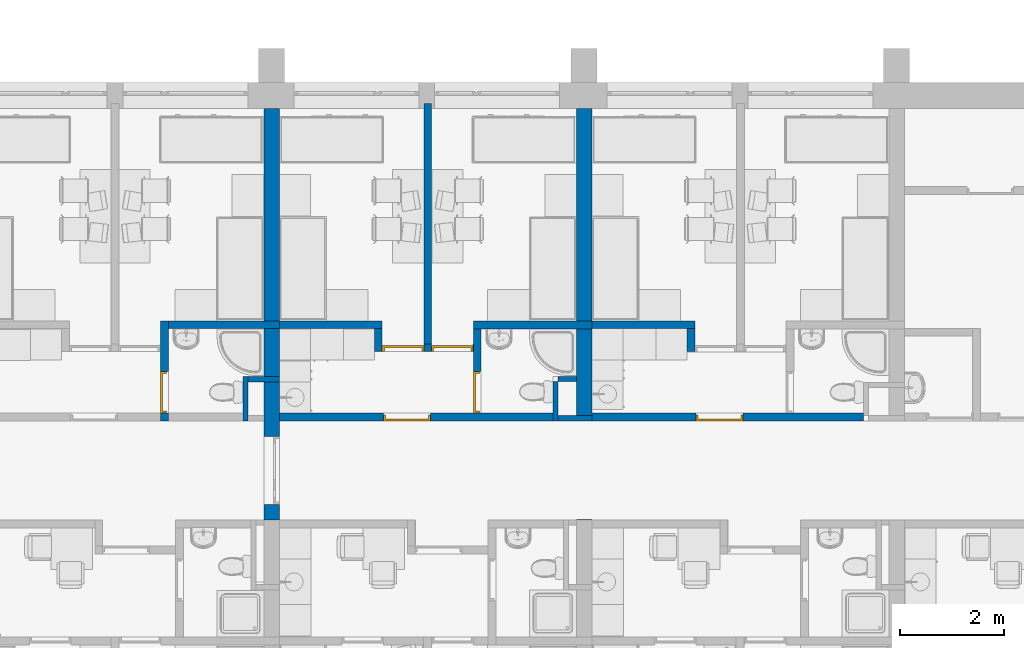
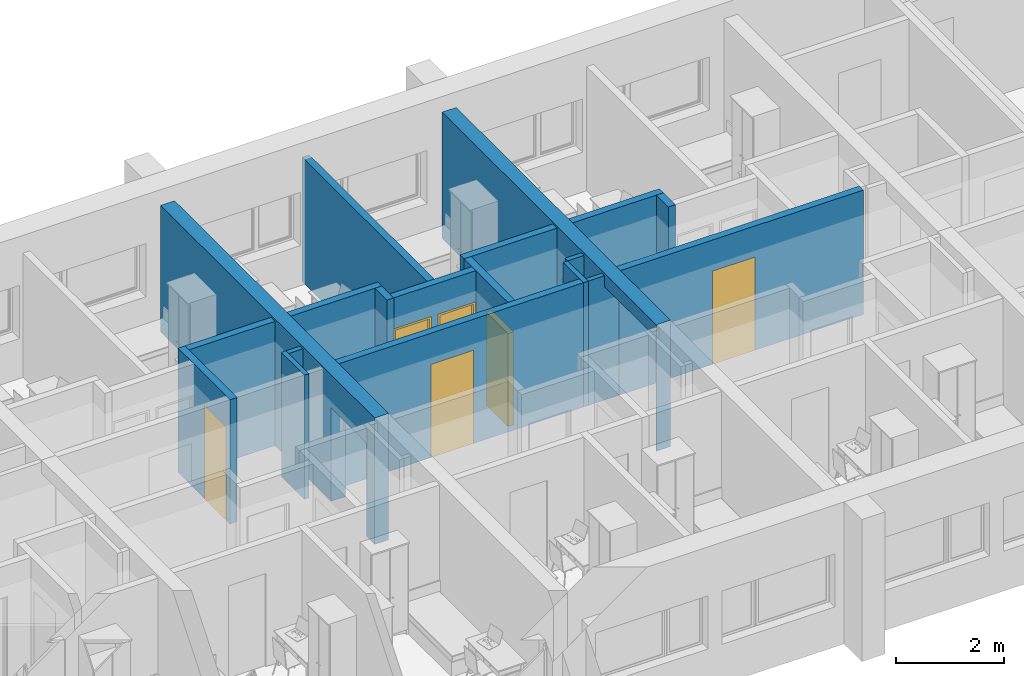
# One storey, part 7 of 165: 19 walls, 6 doors, 8 openings.
"""IFC2X3 building model written with IfcOpenShell, lengths in millimetres."""

from ifc_helpers import new_model, entity, si_unit, converted_unit, money_unit, direction, frame, origin_with_axes, place, context, subcontext, project, spatial, polyline, outline, extrude, faceted_brep, source, transform, mapped, material, material_list, layer, layer_set, layer_usage, type_object, element, fill, save


model = new_model("IFC2X3")

# Units and contexts
model_context = context("Model", 3, precision=1e-05, world=origin_with_axes(), true_north=direction((0.0, 1.0)))
body_context = subcontext(model_context, "Body", "Model", "MODEL_VIEW")
ifc_project = project(units=[si_unit("LENGTHUNIT", "METRE", prefix="MILLI"), si_unit("AREAUNIT", "SQUARE_METRE"), si_unit("VOLUMEUNIT", "CUBIC_METRE"), converted_unit("PLANEANGLEUNIT", "DEGREE", entity("IfcPlaneAngleMeasure", 0.0174532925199), si_unit("PLANEANGLEUNIT", "RADIAN"), dimensions=[0, 0, 0, 0, 0, 0, 0]), si_unit("SOLIDANGLEUNIT", "STERADIAN"), money_unit("USD"), converted_unit("TIMEUNIT", "Year", entity("IfcTimeMeasure", 31556926.0), si_unit("TIMEUNIT", "SECOND"), dimensions=[0, 0, 0, 0, 0, 0, 0]), si_unit("MASSUNIT", "GRAM"), si_unit("THERMODYNAMICTEMPERATUREUNIT", "DEGREE_CELSIUS"), si_unit("LUMINOUSINTENSITYUNIT", "LUMEN")], contexts=[model_context])

# Site, building, storey
site_placement = place(None, origin_with_axes())
site = spatial("IfcSite", under=ifc_project, at=site_placement, Name="Site", CompositionType="ELEMENT")
building_placement = place(site_placement, origin_with_axes())
building = spatial("IfcBuilding", under=site, at=building_placement, Name="Building", CompositionType="ELEMENT")
storey_placement = place(building_placement, frame((0.0, 0.0, 6300.0), z_axis=(0.0, 0.0, 1.0), x_axis=(1.0, 0.0, 0.0)))
storey = spatial("IfcBuildingStorey", under=building, at=storey_placement, Name="4KORRUS", CompositionType="ELEMENT", Elevation=6300.0)

# Wall
ifc_material_1 = material(Name="UmbKipsplaat")
ifc_layer_1 = layer(ifc_material_1, 13.0, ventilated="UNKNOWN")
ifc_layer_2 = layer(ifc_material_1, 13.0, ventilated="UNKNOWN")
ifc_material_2 = material(Name="SOOJUSTUS MINERAALVILL")
ifc_layer_3 = layer(ifc_material_2, 98.0, ventilated="UNKNOWN")
ifc_layer_4 = layer(ifc_material_1, 13.0, ventilated="UNKNOWN")
ifc_layer_5 = layer(ifc_material_1, 13.0, ventilated="UNKNOWN")
ifc_layer_set_1 = layer_set([ifc_layer_1, ifc_layer_2, ifc_layer_3, ifc_layer_4, ifc_layer_5], Name="kipssein150")
ifc_layer_usage_1 = layer_usage(ifc_layer_set_1, "AXIS2", "POSITIVE", -150.0)
wall_type_1 = type_object("IfcWallType", Name="kipssein150 150", PredefinedType="NOTDEFINED")
wall_1_placement = place(storey_placement, frame((-28015.7435229, -9366.37850445, 0.0), z_axis=(0.0, 0.0, 1.0), x_axis=(-1.0, 0.0, 0.0)))
element("IfcWallStandardCase", 1, at=wall_1_placement, inside=storey, type_object=wall_type_1, material=ifc_layer_usage_1, Name="SS1", ObjectType="SS1", context=body_context, shape_type="SweptSolid", body=[
    extrude(outline(polyline([(0.0, -150.0), (1974.55318041, -150.0), (1974.55318041, 0.0), (0.0, 0.0), (0.0, -150.0)])), origin_with_axes(), (0.0, 0.0, 1.0), 2800.0),
])

# Wall, opening, door
ifc_layer_usage_2 = layer_usage(ifc_layer_set_1, "AXIS2", "POSITIVE", 0.0)
wall_2_placement = place(storey_placement, frame((-38271.5850987, -9217.37850445, 0.0), z_axis=(0.0, 0.0, 1.0), x_axis=(0.0, -1.0, 0.0)))
wall_2 = element("IfcWallStandardCase", 2, at=wall_2_placement, inside=storey, type_object=wall_type_1, material=ifc_layer_usage_2, Name="SS1", ObjectType="SS1", context=body_context, shape_type="SweptSolid", body=[
    extrude(outline(polyline([(0.0, 0.0), (1919.22560435, 0.0), (1919.22560435, 150.0), (0.0, 150.0), (0.0, 0.0)])), origin_with_axes(), (0.0, 0.0, 1.0), 2800.0),
])
opening_1_placement = place(wall_2_placement, frame((1369.22560435, 0.0, 0.0), z_axis=(0.0, 0.0, 1.0), x_axis=(1.0, 0.0, 0.0)))
opening_1 = element("IfcOpeningElement", 3, at=opening_1_placement, cuts=wall_2, Name="SU3-3", context=body_context, shape_type="SweptSolid", body=[
    extrude(outline(polyline([(-400.0, -2100.0), (400.0, -2100.0), (400.0, 0.0), (-400.0, 0.0), (-400.0, -2100.0)])), frame((0.0, 150.0, 0.0), z_axis=(0.0, 1.0, 0.0), x_axis=(1.0, 0.0, 0.0)), (0.0, 0.0, -1.0), 450.0),
])
ifc_material_3 = material(Name="Background")
ifc_material_list = material_list([ifc_material_3])
door_style_1 = type_object("IfcDoorStyle", Name="Door 19", ConstructionType="NOTDEFINED", OperationType="SINGLE_SWING_LEFT", ParameterTakesPrecedence=False, Sizeable=False)
shared_shape_1 = source(origin_with_axes(), body_context, "Body", "Brep", [
    faceted_brep([(360.0, -40.0, 0.0), (360.0, -115.0, 0.0), (360.0, -115.0, 2060.0), (360.0, -40.0, 2060.0), (372.0, -40.0, 0.0), (372.0, 0.0, 0.0), (400.0, 0.0, 0.0), (400.0, -115.0, 0.0), (400.0, -115.0, 2060.0), (372.0, -40.0, 2060.0), (400.0, 0.0, 2060.0), (372.0, 0.0, 2060.0)], [[[0, 1, 2, 3]], [[4, 5, 6, 7, 1, 0]], [[2, 1, 7, 8]], [[9, 3, 2, 8, 10, 11]], [[9, 4, 0, 3]], [[11, 5, 4, 9]], [[11, 10, 6, 5]], [[7, 6, 10, 8]]]),
    faceted_brep([(-372.0, -40.0, 2060.0), (-372.0, 0.0, 2060.0), (-400.0, 0.0, 2060.0), (-400.0, -115.0, 2060.0), (-360.0, -115.0, 2060.0), (-360.0, -40.0, 2060.0), (-372.0, -40.0, 0.0), (-372.0, 0.0, 0.0), (-400.0, 0.0, 0.0), (-400.0, -115.0, 0.0), (-360.0, -115.0, 0.0), (-360.0, -40.0, 0.0)], [[[0, 1, 2, 3, 4, 5]], [[0, 6, 7, 1]], [[7, 8, 2, 1]], [[3, 2, 8, 9]], [[4, 3, 9, 10]], [[5, 4, 10, 11]], [[5, 11, 6, 0]], [[6, 11, 10, 9, 8, 7]]]),
    faceted_brep([(372.0, 0.0, 2072.0), (-372.0, 0.0, 2072.0), (-372.0, 0.0, 2060.0), (-400.0, 0.0, 2060.0), (-400.0, 0.0, 2100.0), (400.0, 0.0, 2100.0), (400.0, 0.0, 2060.0), (372.0, 0.0, 2060.0), (372.0, -40.0, 2072.0), (-372.0, -40.0, 2072.0), (-372.0, -40.0, 2060.0), (-360.0, -40.0, 2060.0), (-360.0, -115.0, 2060.0), (-400.0, -115.0, 2060.0), (-400.0, -115.0, 2100.0), (400.0, -115.0, 2100.0), (400.0, -115.0, 2060.0), (372.0, -40.0, 2060.0), (360.0, -115.0, 2060.0), (360.0, -40.0, 2060.0)], [[[0, 1, 2, 3, 4, 5, 6, 7]], [[0, 8, 9, 1]], [[1, 9, 10, 2]], [[10, 11, 12, 13, 3, 2]], [[14, 4, 3, 13]], [[15, 5, 4, 14]], [[16, 6, 5, 15]], [[17, 7, 6, 16, 18, 19]], [[7, 17, 8, 0]], [[10, 9, 8, 17, 19, 11]], [[19, 18, 12, 11]], [[13, 12, 18, 16, 15, 14]]]),
    faceted_brep([(-372.0, 0.0, 0.0), (372.0, 0.0, 0.0), (372.0, -40.0, 0.0), (-372.0, -40.0, 0.0), (-372.0, 0.0, 2072.0), (372.0, 0.0, 2072.0), (372.0, -40.0, 2072.0), (-372.0, -40.0, 2072.0)], [[[0, 1, 2, 3]], [[0, 4, 5, 1]], [[1, 5, 6, 2]], [[3, 2, 6, 7]], [[4, 0, 3, 7]], [[5, 4, 7, 6]]]),
])
door_1_placement = place(opening_1_placement, frame((400.0, 0.0, 0.0), z_axis=(0.0, 0.0, 1.0), x_axis=(-1.0, 0.0, 0.0)))
door_1 = element("IfcDoor", 4, at=door_1_placement, inside=storey, type_object=door_style_1, material=ifc_material_list, Name="SU3-3", ObjectType="WC-uks", OverallHeight=2100.0, OverallWidth=800.0, context=body_context, shape_type="MappedRepresentation", body=[
    mapped(shared_shape_1, transform((400.0, 0.0, 0.0))),
])
fill(opening_1, door_1)

# Walls
ifc_layer_usage_3 = layer_usage(ifc_layer_set_1, "AXIS2", "POSITIVE", 0.0)
wall_3_placement = place(storey_placement, frame((-38271.5850987, -9366.37850445, 0.0), z_axis=(0.0, 0.0, 1.0), x_axis=(1.0, 0.0, 0.0)))
element("IfcWallStandardCase", 5, at=wall_3_placement, inside=storey, type_object=wall_type_1, material=ifc_layer_usage_3, Name="SS1", ObjectType="SS1", context=body_context, shape_type="SweptSolid", body=[
    extrude(outline(polyline([(0.0, 0.0), (2281.28839536, 0.0), (2281.28839536, 150.0), (0.0, 150.0), (0.0, 0.0)])), origin_with_axes(), (0.0, 0.0, 1.0), 2800.0),
])
ifc_layer_usage_4 = layer_usage(ifc_layer_set_1, "AXIS2", "POSITIVE", 0.0)
wall_4_placement = place(storey_placement, frame((-32265.2967033, -9367.37850445, 0.0), z_axis=(0.0, 0.0, 1.0), x_axis=(1.0, 0.0, 0.0)))
element("IfcWallStandardCase", 6, at=wall_4_placement, inside=storey, type_object=wall_type_1, material=ifc_layer_usage_4, Name="SS1", ObjectType="SS1", context=body_context, shape_type="SweptSolid", body=[
    extrude(outline(polyline([(0.0, 0.0), (2275.0, 0.0), (2275.0, 150.0), (0.0, 150.0), (0.0, 0.0)])), origin_with_axes(), (0.0, 0.0, 1.0), 2800.0),
])
ifc_layer_usage_5 = layer_usage(ifc_layer_set_1, "AXIS2", "POSITIVE", -150.0)
wall_5_placement = place(storey_placement, frame((-34015.7435229, -9366.37850445, 0.0), z_axis=(0.0, 0.0, 1.0), x_axis=(0.0, -1.0, 0.0)))
element("IfcWallStandardCase", 7, at=wall_5_placement, inside=storey, type_object=wall_type_1, material=ifc_layer_usage_5, Name="SS1", ObjectType="SS1", context=body_context, shape_type="SweptSolid", body=[
    extrude(outline(polyline([(0.0, -150.0), (440.515634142, -150.0), (440.515634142, 0.0), (0.0, 0.0), (0.0, -150.0)])), origin_with_axes(), (0.0, 0.0, 1.0), 2800.0),
])

# Wall, openings, doors
ifc_layer_usage_6 = layer_usage(ifc_layer_set_1, "AXIS2", "POSITIVE", 0.0)
wall_6_placement = place(storey_placement, frame((-34015.7435229, -9806.89413859, 0.0), z_axis=(0.0, 0.0, 1.0), x_axis=(1.0, 0.0, 0.0)))
wall_6 = element("IfcWallStandardCase", 8, at=wall_6_placement, inside=storey, type_object=wall_type_1, material=ifc_layer_usage_6, Name="SS1", ObjectType="SS1", context=body_context, shape_type="SweptSolid", body=[
    extrude(outline(polyline([(0.0, 0.0), (1750.44681959, 0.0), (1750.44681959, 150.0), (0.0, 150.0), (0.0, 0.0)])), origin_with_axes(), (0.0, 0.0, 1.0), 2800.0),
])
opening_2_placement = place(wall_6_placement, frame((1341.45577623, 0.0, 0.0), z_axis=(0.0, 0.0, 1.0), x_axis=(1.0, 0.0, 0.0)))
opening_2 = element("IfcOpeningElement", 9, at=opening_2_placement, cuts=wall_6, Name="SU3-5", context=body_context, shape_type="SweptSolid", body=[
    extrude(outline(polyline([(-400.0, 0.0), (400.0, 0.0), (400.0, 2100.0), (-400.0, 2100.0), (-400.0, 0.0)])), frame((0.0, 150.0, 0.0), z_axis=(0.0, 1.0, 0.0), x_axis=(-1.0, 0.0, 0.0)), (0.0, 0.0, -1.0), 450.0),
])
opening_3_placement = place(wall_6_placement, frame((400.0, 0.0, 0.0), z_axis=(0.0, 0.0, 1.0), x_axis=(1.0, 0.0, 0.0)))
opening_3 = element("IfcOpeningElement", 10, at=opening_3_placement, cuts=wall_6, Name="SU3-4", context=body_context, shape_type="SweptSolid", body=[
    extrude(outline(polyline([(-400.0, 0.0), (400.0, 0.0), (400.0, 2100.0), (-400.0, 2100.0), (-400.0, 0.0)])), frame((0.0, 150.0, 0.0), z_axis=(0.0, -1.0, 0.0), x_axis=(1.0, 0.0, 0.0)), (0.0, 0.0, 1.0), 450.0),
])
door_style_2 = type_object("IfcDoorStyle", Name="Door 19", ConstructionType="NOTDEFINED", OperationType="SINGLE_SWING_LEFT", ParameterTakesPrecedence=False, Sizeable=False)
shared_shape_2 = source(origin_with_axes(), body_context, "Body", "Brep", [
    faceted_brep([(360.0, -75.0, 0.0), (360.0, -150.0, 0.0), (360.0, -150.0, 2060.0), (360.0, -75.0, 2060.0), (372.0, -75.0, 0.0), (372.0, -35.0, 0.0), (400.0, -35.0, 0.0), (400.0, -150.0, 0.0), (400.0, -150.0, 2060.0), (372.0, -75.0, 2060.0), (400.0, -35.0, 2060.0), (372.0, -35.0, 2060.0)], [[[0, 1, 2, 3]], [[4, 5, 6, 7, 1, 0]], [[2, 1, 7, 8]], [[9, 3, 2, 8, 10, 11]], [[9, 4, 0, 3]], [[11, 5, 4, 9]], [[11, 10, 6, 5]], [[7, 6, 10, 8]]]),
    faceted_brep([(-372.0, -75.0, 2060.0), (-372.0, -35.0, 2060.0), (-400.0, -35.0, 2060.0), (-400.0, -150.0, 2060.0), (-360.0, -150.0, 2060.0), (-360.0, -75.0, 2060.0), (-372.0, -75.0, 0.0), (-372.0, -35.0, 0.0), (-400.0, -35.0, 0.0), (-400.0, -150.0, 0.0), (-360.0, -150.0, 0.0), (-360.0, -75.0, 0.0)], [[[0, 1, 2, 3, 4, 5]], [[0, 6, 7, 1]], [[7, 8, 2, 1]], [[3, 2, 8, 9]], [[4, 3, 9, 10]], [[5, 4, 10, 11]], [[5, 11, 6, 0]], [[6, 11, 10, 9, 8, 7]]]),
    faceted_brep([(372.0, -35.0, 2072.0), (-372.0, -35.0, 2072.0), (-372.0, -35.0, 2060.0), (-400.0, -35.0, 2060.0), (-400.0, -35.0, 2100.0), (400.0, -35.0, 2100.0), (400.0, -35.0, 2060.0), (372.0, -35.0, 2060.0), (372.0, -75.0, 2072.0), (-372.0, -75.0, 2072.0), (-372.0, -75.0, 2060.0), (-360.0, -75.0, 2060.0), (-360.0, -150.0, 2060.0), (-400.0, -150.0, 2060.0), (-400.0, -150.0, 2100.0), (400.0, -150.0, 2100.0), (400.0, -150.0, 2060.0), (372.0, -75.0, 2060.0), (360.0, -150.0, 2060.0), (360.0, -75.0, 2060.0)], [[[0, 1, 2, 3, 4, 5, 6, 7]], [[0, 8, 9, 1]], [[1, 9, 10, 2]], [[10, 11, 12, 13, 3, 2]], [[14, 4, 3, 13]], [[15, 5, 4, 14]], [[16, 6, 5, 15]], [[17, 7, 6, 16, 18, 19]], [[7, 17, 8, 0]], [[10, 9, 8, 17, 19, 11]], [[19, 18, 12, 11]], [[13, 12, 18, 16, 15, 14]]]),
    faceted_brep([(-372.0, -35.0, 0.0), (372.0, -35.0, 0.0), (372.0, -75.0, 0.0), (-372.0, -75.0, 0.0), (-372.0, -35.0, 2072.0), (372.0, -35.0, 2072.0), (372.0, -75.0, 2072.0), (-372.0, -75.0, 2072.0)], [[[0, 1, 2, 3]], [[0, 4, 5, 1]], [[1, 5, 6, 2]], [[3, 2, 6, 7]], [[4, 0, 3, 7]], [[5, 4, 7, 6]]]),
])
door_2_placement = place(opening_2_placement, frame((-400.0, 0.0, 0.0), z_axis=(0.0, 0.0, 1.0), x_axis=(1.0, 0.0, 0.0)))
door_2 = element("IfcDoor", 11, at=door_2_placement, inside=storey, type_object=door_style_2, material=ifc_material_list, Name="SU3-5", ObjectType="Toa uks", OverallHeight=2100.0, OverallWidth=800.0, context=body_context, shape_type="MappedRepresentation", body=[
    mapped(shared_shape_2, transform((400.0, 150.0, 0.0))),
])
fill(opening_2, door_2)
door_style_3 = type_object("IfcDoorStyle", Name="Door 19", ConstructionType="NOTDEFINED", OperationType="SINGLE_SWING_RIGHT", ParameterTakesPrecedence=False, Sizeable=False)
shared_shape_3 = source(origin_with_axes(), body_context, "Body", "Brep", [
    faceted_brep([(-360.0, -75.0, 0.0), (-360.0, -75.0, 2060.0), (-360.0, -150.0, 2060.0), (-360.0, -150.0, 0.0), (-372.0, -75.0, 2060.0), (-372.0, -75.0, 0.0), (-372.0, -35.0, 2060.0), (-400.0, -35.0, 2060.0), (-400.0, -150.0, 2060.0), (-400.0, -150.0, 0.0), (-400.0, -35.0, 0.0), (-372.0, -35.0, 0.0)], [[[0, 1, 2, 3]], [[4, 1, 0, 5]], [[4, 6, 7, 8, 2, 1]], [[2, 8, 9, 3]], [[5, 0, 3, 9, 10, 11]], [[6, 4, 5, 11]], [[6, 11, 10, 7]], [[9, 8, 7, 10]]]),
    faceted_brep([(372.0, -75.0, 2060.0), (360.0, -75.0, 2060.0), (360.0, -150.0, 2060.0), (400.0, -150.0, 2060.0), (400.0, -35.0, 2060.0), (372.0, -35.0, 2060.0), (372.0, -75.0, 0.0), (360.0, -75.0, 0.0), (360.0, -150.0, 0.0), (400.0, -150.0, 0.0), (400.0, -35.0, 0.0), (372.0, -35.0, 0.0)], [[[0, 1, 2, 3, 4, 5]], [[1, 0, 6, 7]], [[1, 7, 8, 2]], [[2, 8, 9, 3]], [[3, 9, 10, 4]], [[11, 5, 4, 10]], [[0, 5, 11, 6]], [[6, 11, 10, 9, 8, 7]]]),
    faceted_brep([(-372.0, -35.0, 2072.0), (-372.0, -35.0, 2060.0), (-400.0, -35.0, 2060.0), (-400.0, -35.0, 2100.0), (400.0, -35.0, 2100.0), (400.0, -35.0, 2060.0), (372.0, -35.0, 2060.0), (372.0, -35.0, 2072.0), (-372.0, -75.0, 2072.0), (-372.0, -75.0, 2060.0), (-360.0, -75.0, 2060.0), (-360.0, -150.0, 2060.0), (-400.0, -150.0, 2060.0), (-400.0, -150.0, 2100.0), (400.0, -150.0, 2100.0), (400.0, -150.0, 2060.0), (372.0, -75.0, 2060.0), (360.0, -150.0, 2060.0), (360.0, -75.0, 2060.0), (372.0, -75.0, 2072.0)], [[[0, 1, 2, 3, 4, 5, 6, 7]], [[1, 0, 8, 9]], [[9, 10, 11, 12, 2, 1]], [[12, 13, 3, 2]], [[13, 14, 4, 3]], [[14, 15, 5, 4]], [[16, 6, 5, 15, 17, 18]], [[7, 6, 16, 19]], [[0, 7, 19, 8]], [[16, 18, 10, 9, 8, 19]], [[10, 18, 17, 11]], [[15, 14, 13, 12, 11, 17]]]),
    faceted_brep([(372.0, -35.0, 0.0), (372.0, -75.0, 0.0), (-372.0, -75.0, 0.0), (-372.0, -35.0, 0.0), (372.0, -35.0, 2072.0), (372.0, -75.0, 2072.0), (-372.0, -75.0, 2072.0), (-372.0, -35.0, 2072.0)], [[[0, 1, 2, 3]], [[4, 5, 1, 0]], [[1, 5, 6, 2]], [[3, 2, 6, 7]], [[0, 3, 7, 4]], [[7, 6, 5, 4]]]),
])
door_3_placement = place(opening_3_placement, frame((-400.0, 0.0, 0.0), z_axis=(0.0, 0.0, 1.0), x_axis=(1.0, 0.0, 0.0)))
door_3 = element("IfcDoor", 12, at=door_3_placement, inside=storey, type_object=door_style_3, material=ifc_material_list, Name="SU3-4", ObjectType="Toa uks", OverallHeight=2100.0, OverallWidth=800.0, context=body_context, shape_type="MappedRepresentation", body=[
    mapped(shared_shape_3, transform((400.0, 150.0, 0.0))),
])
fill(opening_3, door_3)

# Wall
ifc_layer_usage_7 = layer_usage(ifc_layer_set_1, "AXIS2", "POSITIVE", 0.0)
wall_7_placement = place(storey_placement, frame((-33215.7435229, -5039.6041088, 0.0), z_axis=(0.0, 0.0, 1.0), x_axis=(0.0, -1.0, 0.0)))
element("IfcWallStandardCase", 13, at=wall_7_placement, inside=storey, type_object=wall_type_1, material=ifc_layer_usage_7, Name="SS1", ObjectType="SS1", context=body_context, shape_type="SweptSolid", body=[
    extrude(outline(polyline([(0.0, 0.0), (4767.29002979, 0.0), (4767.29002979, 150.0), (0.0, 150.0), (0.0, 0.0)])), origin_with_axes(), (0.0, 0.0, 1.0), 2800.0),
])

# Wall, opening, door
ifc_layer_usage_8 = layer_usage(ifc_layer_set_1, "AXIS2", "POSITIVE", 0.0)
wall_8_placement = place(storey_placement, frame((-35990.2967033, -11136.6041088, 0.0), z_axis=(0.0, 0.0, 1.0), x_axis=(1.0, 0.0, 0.0)))
wall_8 = element("IfcWallStandardCase", 14, at=wall_8_placement, inside=storey, type_object=wall_type_1, material=ifc_layer_usage_8, Name="SS1", ObjectType="SS1", context=body_context, shape_type="SweptSolid", body=[
    extrude(outline(polyline([(0.0, 0.0), (5250.0, 0.0), (5250.0, 150.0), (0.0, 150.0), (0.0, 0.0)])), origin_with_axes(), (0.0, 0.0, 1.0), 2800.0),
])
opening_4_placement = place(wall_8_placement, frame((2449.55318041, 0.0, 0.0), z_axis=(0.0, 0.0, 1.0), x_axis=(1.0, 0.0, 0.0)))
opening_4 = element("IfcOpeningElement", 15, at=opening_4_placement, cuts=wall_8, Name="SU2-6", context=body_context, shape_type="SweptSolid", body=[
    extrude(outline(polyline([(-450.0, -2100.0), (450.0, -2100.0), (450.0, 0.0), (-450.0, 0.0), (-450.0, -2100.0)])), frame((0.0, 150.0, 0.0), z_axis=(0.0, 1.0, 0.0), x_axis=(1.0, 0.0, 0.0)), (0.0, 0.0, -1.0), 450.0),
])
shared_shape_4 = source(origin_with_axes(), body_context, "Body", "Brep", [
    faceted_brep([(410.0, -40.0, 0.0), (410.0, -115.0, 0.0), (410.0, -115.0, 2060.0), (410.0, -40.0, 2060.0), (422.0, -40.0, 0.0), (422.0, 0.0, 0.0), (450.0, 0.0, 0.0), (450.0, -115.0, 0.0), (450.0, -115.0, 2060.0), (422.0, -40.0, 2060.0), (450.0, 0.0, 2060.0), (422.0, 0.0, 2060.0)], [[[0, 1, 2, 3]], [[4, 5, 6, 7, 1, 0]], [[2, 1, 7, 8]], [[9, 3, 2, 8, 10, 11]], [[9, 4, 0, 3]], [[11, 5, 4, 9]], [[11, 10, 6, 5]], [[7, 6, 10, 8]]]),
    faceted_brep([(-422.0, -40.0, 2060.0), (-422.0, 0.0, 2060.0), (-450.0, 0.0, 2060.0), (-450.0, -115.0, 2060.0), (-410.0, -115.0, 2060.0), (-410.0, -40.0, 2060.0), (-422.0, -40.0, 0.0), (-422.0, 0.0, 0.0), (-450.0, 0.0, 0.0), (-450.0, -115.0, 0.0), (-410.0, -115.0, 0.0), (-410.0, -40.0, 0.0)], [[[0, 1, 2, 3, 4, 5]], [[0, 6, 7, 1]], [[7, 8, 2, 1]], [[3, 2, 8, 9]], [[4, 3, 9, 10]], [[5, 4, 10, 11]], [[5, 11, 6, 0]], [[6, 11, 10, 9, 8, 7]]]),
    faceted_brep([(422.0, 0.0, 2072.0), (-422.0, 0.0, 2072.0), (-422.0, 0.0, 2060.0), (-450.0, 0.0, 2060.0), (-450.0, 0.0, 2100.0), (450.0, 0.0, 2100.0), (450.0, 0.0, 2060.0), (422.0, 0.0, 2060.0), (422.0, -40.0, 2072.0), (-422.0, -40.0, 2072.0), (-422.0, -40.0, 2060.0), (-410.0, -40.0, 2060.0), (-410.0, -115.0, 2060.0), (-450.0, -115.0, 2060.0), (-450.0, -115.0, 2100.0), (450.0, -115.0, 2100.0), (450.0, -115.0, 2060.0), (422.0, -40.0, 2060.0), (410.0, -115.0, 2060.0), (410.0, -40.0, 2060.0)], [[[0, 1, 2, 3, 4, 5, 6, 7]], [[0, 8, 9, 1]], [[1, 9, 10, 2]], [[10, 11, 12, 13, 3, 2]], [[14, 4, 3, 13]], [[15, 5, 4, 14]], [[16, 6, 5, 15]], [[17, 7, 6, 16, 18, 19]], [[7, 17, 8, 0]], [[10, 9, 8, 17, 19, 11]], [[19, 18, 12, 11]], [[13, 12, 18, 16, 15, 14]]]),
    faceted_brep([(-422.0, 0.0, 0.0), (422.0, 0.0, 0.0), (422.0, -40.0, 0.0), (-422.0, -40.0, 0.0), (-422.0, 0.0, 2072.0), (422.0, 0.0, 2072.0), (422.0, -40.0, 2072.0), (-422.0, -40.0, 2072.0)], [[[0, 1, 2, 3]], [[0, 4, 5, 1]], [[1, 5, 6, 2]], [[3, 2, 6, 7]], [[4, 0, 3, 7]], [[5, 4, 7, 6]]]),
])
door_4_placement = place(opening_4_placement, frame((450.0, 0.0, 0.0), z_axis=(0.0, 0.0, 1.0), x_axis=(-1.0, 0.0, 0.0)))
door_4 = element("IfcDoor", 16, at=door_4_placement, inside=storey, type_object=door_style_1, material=ifc_material_list, Name="SU2-6", ObjectType="Korteri välisuks", OverallHeight=2100.0, OverallWidth=900.0, context=body_context, shape_type="MappedRepresentation", body=[
    mapped(shared_shape_4, transform((450.0, 0.0, 0.0))),
])
fill(opening_4, door_4)

ifc_layer_usage_9 = layer_usage(ifc_layer_set_1, "AXIS2", "POSITIVE", 0.0)
wall_9_placement = place(storey_placement, frame((-29990.2967033, -11136.6041088, 0.0), z_axis=(0.0, 0.0, 1.0), x_axis=(1.0, 0.0, 0.0)))
wall_9 = element("IfcWallStandardCase", 17, at=wall_9_placement, inside=storey, type_object=wall_type_1, material=ifc_layer_usage_9, Name="SS1", ObjectType="SS1", context=body_context, shape_type="SweptSolid", body=[
    extrude(outline(polyline([(0.0, 0.0), (5212.57679072, 0.0), (5212.57679072, 150.0), (0.0, 150.0), (0.0, 0.0)])), origin_with_axes(), (0.0, 0.0, 1.0), 2800.0),
])
opening_5_placement = place(wall_9_placement, frame((2449.55318041, 0.0, 0.0), z_axis=(0.0, 0.0, 1.0), x_axis=(1.0, 0.0, 0.0)))
opening_5 = element("IfcOpeningElement", 18, at=opening_5_placement, cuts=wall_9, Name="SU2-6", context=body_context, shape_type="SweptSolid", body=[
    extrude(outline(polyline([(-450.0, -2100.0), (450.0, -2100.0), (450.0, 0.0), (-450.0, 0.0), (-450.0, -2100.0)])), frame((0.0, 150.0, 0.0), z_axis=(0.0, 1.0, 0.0), x_axis=(1.0, 0.0, 0.0)), (0.0, 0.0, -1.0), 450.0),
])
door_5_placement = place(opening_5_placement, frame((450.0, 0.0, 0.0), z_axis=(0.0, 0.0, 1.0), x_axis=(-1.0, 0.0, 0.0)))
door_5 = element("IfcDoor", 19, at=door_5_placement, inside=storey, type_object=door_style_1, material=ifc_material_list, Name="SU2-6", ObjectType="Korteri välisuks", OverallHeight=2100.0, OverallWidth=900.0, context=body_context, shape_type="MappedRepresentation", body=[
    mapped(shared_shape_4, transform((450.0, 0.0, 0.0))),
])
fill(opening_5, door_5)

ifc_layer_usage_10 = layer_usage(ifc_layer_set_1, "AXIS2", "POSITIVE", 0.0)
wall_10_placement = place(storey_placement, frame((-32265.2967033, -9367.37850445, 0.0), z_axis=(0.0, 0.0, 1.0), x_axis=(0.0, -1.0, 0.0)))
wall_10 = element("IfcWallStandardCase", 20, at=wall_10_placement, inside=storey, type_object=wall_type_1, material=ifc_layer_usage_10, Name="SS1", ObjectType="SS1", context=body_context, shape_type="SweptSolid", body=[
    extrude(outline(polyline([(0.0, 0.0), (1620.22560435, 0.0), (1620.22560435, 150.0), (0.0, 150.0), (0.0, 0.0)])), origin_with_axes(), (0.0, 0.0, 1.0), 2800.0),
])
opening_6_placement = place(wall_10_placement, frame((1220.22560435, 0.0, 0.0), z_axis=(0.0, 0.0, 1.0), x_axis=(1.0, 0.0, 0.0)))
opening_6 = element("IfcOpeningElement", 21, at=opening_6_placement, cuts=wall_10, Name="SU3-3", context=body_context, shape_type="SweptSolid", body=[
    extrude(outline(polyline([(-400.0, -2100.0), (400.0, -2100.0), (400.0, 0.0), (-400.0, 0.0), (-400.0, -2100.0)])), frame((0.0, 150.0, 0.0), z_axis=(0.0, 1.0, 0.0), x_axis=(1.0, 0.0, 0.0)), (0.0, 0.0, -1.0), 450.0),
])
door_6_placement = place(opening_6_placement, frame((400.0, 0.0, 0.0), z_axis=(0.0, 0.0, 1.0), x_axis=(-1.0, 0.0, 0.0)))
door_6 = element("IfcDoor", 22, at=door_6_placement, inside=storey, type_object=door_style_1, material=ifc_material_list, Name="SU3-3", ObjectType="WC-uks", OverallHeight=2100.0, OverallWidth=800.0, context=body_context, shape_type="MappedRepresentation", body=[
    mapped(shared_shape_1, transform((400.0, 0.0, 0.0))),
])
fill(opening_6, door_6)

# Walls
ifc_layer_usage_11 = layer_usage(ifc_layer_set_1, "AXIS2", "POSITIVE", -150.0)
wall_11_placement = place(storey_placement, frame((-34015.7435229, -9366.37850445, 0.0), z_axis=(0.0, 0.0, 1.0), x_axis=(-1.0, 0.0, 0.0)))
element("IfcWallStandardCase", 23, at=wall_11_placement, inside=storey, type_object=wall_type_1, material=ifc_layer_usage_11, Name="SS1", ObjectType="SS1", context=body_context, shape_type="SweptSolid", body=[
    extrude(outline(polyline([(0.0, -150.0), (1974.55318041, -150.0), (1974.55318041, 0.0), (0.0, 0.0), (0.0, -150.0)])), origin_with_axes(), (0.0, 0.0, 1.0), 2800.0),
])
ifc_layer_usage_12 = layer_usage(ifc_layer_set_1, "AXIS2", "POSITIVE", -150.0)
wall_12_placement = place(storey_placement, frame((-28015.7435229, -9366.37850445, 0.0), z_axis=(0.0, 0.0, 1.0), x_axis=(0.0, -1.0, 0.0)))
element("IfcWallStandardCase", 24, at=wall_12_placement, inside=storey, type_object=wall_type_1, material=ifc_layer_usage_12, Name="SS1", ObjectType="SS1", context=body_context, shape_type="SweptSolid", body=[
    extrude(outline(polyline([(0.0, -150.0), (440.515634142, -150.0), (440.515634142, 0.0), (0.0, 0.0), (0.0, -150.0)])), origin_with_axes(), (0.0, 0.0, 1.0), 2800.0),
])

# Wall, opening
ifc_material_4 = material(Name="Olemasolevad seinad tellis, uus viimistlus")
ifc_layer_6 = layer(ifc_material_4, 300.0, ventilated="UNKNOWN")
ifc_layer_set_2 = layer_set([ifc_layer_6], Name="Olemasolevad seinad tellis, uus viimistlus  300")
ifc_layer_usage_13 = layer_usage(ifc_layer_set_2, "AXIS2", "POSITIVE", 0.0)
wall_type_2 = type_object("IfcWallType", Name="Olemasolevad seinad tellis, uus viimistlus  300", PredefinedType="NOTDEFINED")
wall_13_placement = place(storey_placement, frame((-35990.2967033, -13039.3705726, 0.0), z_axis=(0.0, 0.0, 1.0), x_axis=(0.0, 1.0, 0.0)))
wall_13 = element("IfcWallStandardCase", 25, at=wall_13_placement, inside=storey, type_object=wall_type_2, material=ifc_layer_usage_13, Name="KS1", ObjectType="KS1", context=body_context, shape_type="SweptSolid", body=[
    extrude(outline(polyline([(0.0, 0.0), (7899.7664638, 0.0), (7899.7664638, 300.0), (0.0, 300.0), (0.0, 0.0)])), origin_with_axes(), (0.0, 0.0, 1.0), 2850.0),
])
opening_7_placement = place(wall_13_placement, frame((952.280323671, 0.0, 0.0), z_axis=(0.0, 0.0, 1.0), x_axis=(1.0, 0.0, 0.0)))
element("IfcOpeningElement", 26, at=opening_7_placement, cuts=wall_13, Name="SU4-22", context=body_context, shape_type="SweptSolid", body=[
    extrude(outline(polyline([(-650.0, 0.0), (650.0, 0.0), (650.0, 2100.0), (-650.0, 2100.0), (-650.0, 0.0)])), frame((0.0, 300.0, 0.0), z_axis=(0.0, -1.0, 0.0), x_axis=(1.0, 0.0, 0.0)), (0.0, 0.0, 1.0), 900.0),
])

ifc_layer_usage_14 = layer_usage(ifc_layer_set_2, "AXIS2", "POSITIVE", 0.0)
wall_14_placement = place(storey_placement, frame((-29990.2967033, -13039.3705726, 0.0), z_axis=(0.0, 0.0, 1.0), x_axis=(0.0, 1.0, 0.0)))
wall_14 = element("IfcWallStandardCase", 27, at=wall_14_placement, inside=storey, type_object=wall_type_2, material=ifc_layer_usage_14, Name="KS1", ObjectType="KS1", context=body_context, shape_type="SweptSolid", body=[
    extrude(outline(polyline([(0.0, 0.0), (7899.7664638, 0.0), (7899.7664638, 300.0), (0.0, 300.0), (0.0, 0.0)])), origin_with_axes(), (0.0, 0.0, 1.0), 2850.0),
])
opening_8_placement = place(wall_14_placement, frame((956.176406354, 0.0, 0.0), z_axis=(0.0, 0.0, 1.0), x_axis=(1.0, 0.0, 0.0)))
element("IfcOpeningElement", 28, at=opening_8_placement, cuts=wall_14, Name="DOO - 001", context=body_context, shape_type="SweptSolid", body=[
    extrude(outline(polyline([(-946.59, 2550.0), (-946.59, 0.0), (946.59, 0.0), (946.59, 2550.0), (-946.59, 2550.0)])), frame((0.0, 0.0, 0.0), z_axis=(0.0, -1.0, 0.0), x_axis=(1.0, 0.0, 0.0)), (0.0, 0.0, 1.0), 300.0),
    extrude(outline(polyline([(-946.59, 0.0), (-946.59, -2550.0), (946.59, -2550.0), (946.59, 0.0), (-946.59, 0.0)])), frame((0.0, 0.0, 0.0), z_axis=(0.0, 1.0, 0.0), x_axis=(1.0, 0.0, 0.0)), (0.0, 0.0, 1.0), 300.0),
])

# Walls
ifc_material_5 = material(Name="krohv")
ifc_layer_7 = layer(ifc_material_5, 2.0, ventilated="UNKNOWN")
ifc_layer_8 = layer(ifc_material_5, 10.0, ventilated="UNKNOWN")
ifc_material_6 = material(Name="Kergplokk")
ifc_layer_9 = layer(ifc_material_6, 76.0, ventilated="UNKNOWN")
ifc_layer_10 = layer(ifc_material_5, 10.0, ventilated="UNKNOWN")
ifc_layer_11 = layer(ifc_material_5, 2.0, ventilated="UNKNOWN")
ifc_layer_set_3 = layer_set([ifc_layer_7, ifc_layer_8, ifc_layer_9, ifc_layer_10, ifc_layer_11], Name="Kergplokk Bauroc 100")
ifc_layer_usage_15 = layer_usage(ifc_layer_set_3, "AXIS2", "POSITIVE", 0.0)
wall_type_3 = type_object("IfcWallType", Name="Kergplokk Bauroc 100 100", PredefinedType="NOTDEFINED")
wall_15_placement = place(storey_placement, frame((-35990.2967033, -10287.3785045, 0.0), z_axis=(0.0, 0.0, 1.0), x_axis=(-1.0, 0.0, 0.0)))
element("IfcWallStandardCase", 29, at=wall_15_placement, inside=storey, type_object=wall_type_3, material=ifc_layer_usage_15, Name="SS2", ObjectType="SS2", context=body_context, shape_type="SweptSolid", body=[
    extrude(outline(polyline([(0.0, 0.0), (599.711604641, 0.0), (599.711604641, 100.0), (0.0, 100.0), (0.0, 0.0)])), origin_with_axes(), (0.0, 0.0, 1.0), 2800.0),
])
ifc_layer_usage_16 = layer_usage(ifc_layer_set_3, "AXIS2", "POSITIVE", 0.0)
wall_16_placement = place(storey_placement, frame((-30640.2967033, -11136.6041088, 0.0), z_axis=(0.0, 0.0, 1.0), x_axis=(1.0, 0.0, 0.0)))
element("IfcWallStandardCase", 30, at=wall_16_placement, inside=storey, type_object=wall_type_3, material=ifc_layer_usage_16, Name="SS2", ObjectType="SS2", context=body_context, shape_type="SweptSolid", body=[
    extrude(outline(polyline([(0.0, 0.0), (650.0, 0.0), (650.0, 100.0), (0.0, 100.0), (0.0, 0.0)])), origin_with_axes(), (0.0, 0.0, 1.0), 2800.0),
])
ifc_layer_usage_17 = layer_usage(ifc_layer_set_3, "AXIS2", "POSITIVE", 0.0)
wall_17_placement = place(storey_placement, frame((-36590.008308, -11136.6041088, 0.0), z_axis=(0.0, 0.0, 1.0), x_axis=(0.0, 1.0, 0.0)))
element("IfcWallStandardCase", 31, at=wall_17_placement, inside=storey, type_object=wall_type_3, material=ifc_layer_usage_17, Name="SS2", ObjectType="SS2", context=body_context, shape_type="SweptSolid", body=[
    extrude(outline(polyline([(0.0, 0.0), (849.225604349, 0.0), (849.225604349, 100.0), (0.0, 100.0), (0.0, 0.0)])), origin_with_axes(), (0.0, 0.0, 1.0), 2800.0),
])
ifc_layer_usage_18 = layer_usage(ifc_layer_set_3, "AXIS2", "POSITIVE", -100.0)
wall_18_placement = place(storey_placement, frame((-30640.2967033, -10380.1041267, 0.0), z_axis=(0.0, 0.0, 1.0), x_axis=(0.0, -1.0, 0.0)))
element("IfcWallStandardCase", 32, at=wall_18_placement, inside=storey, type_object=wall_type_3, material=ifc_layer_usage_18, Name="SS2", ObjectType="SS2", context=body_context, shape_type="SweptSolid", body=[
    extrude(outline(polyline([(0.0, -100.0), (756.499982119, -100.0), (756.499982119, 0.0), (0.0, 0.0), (0.0, -100.0)])), origin_with_axes(), (0.0, 0.0, 1.0), 2800.0),
])
ifc_layer_usage_19 = layer_usage(ifc_layer_set_3, "AXIS2", "POSITIVE", 0.0)
wall_19_placement = place(storey_placement, frame((-30640.2967033, -10380.1041267, 0.0), z_axis=(0.0, 0.0, 1.0), x_axis=(1.0, 0.0, 0.0)))
element("IfcWallStandardCase", 33, at=wall_19_placement, inside=storey, type_object=wall_type_3, material=ifc_layer_usage_19, Name="SS2", ObjectType="SS2", context=body_context, shape_type="SweptSolid", body=[
    extrude(outline(polyline([(0.0, 0.0), (350.0, 0.0), (350.0, 100.0), (0.0, 100.0), (0.0, 0.0)])), origin_with_axes(), (0.0, 0.0, 1.0), 2800.0),
])

save(model, "model.ifc")
